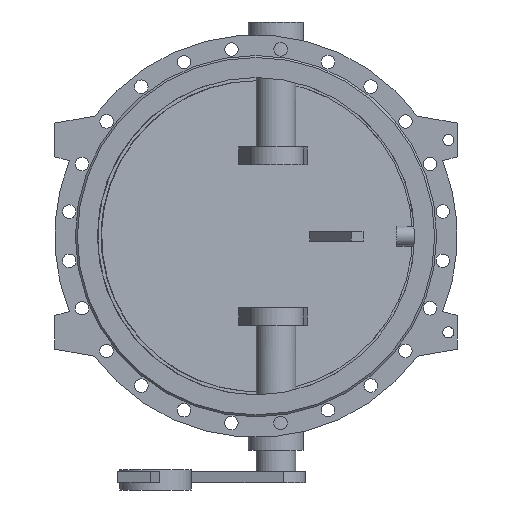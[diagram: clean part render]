
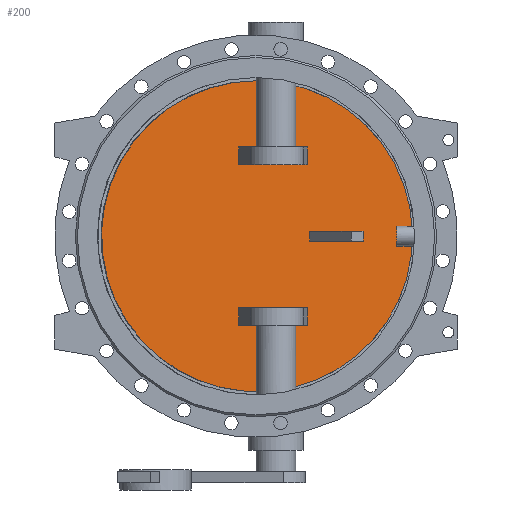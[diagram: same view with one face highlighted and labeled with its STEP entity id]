
A CAD part, front view. The second image highlights one B-rep face of the part: STEP entity #200.
In plain terms, the highlighted planar face has unit normal (0.131, -0.991, 0).
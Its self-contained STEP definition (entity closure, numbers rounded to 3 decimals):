
#200=ADVANCED_FACE('',(#1511,#1513,#1515,#1517),#1519,.T.);
#1511=FACE_BOUND('',#1512,.T.);
#1512=EDGE_LOOP('',(#2916));
#1513=FACE_BOUND('',#1514,.T.);
#1514=EDGE_LOOP('',(#2917,#2918,#2919,#2920));
#1515=FACE_BOUND('',#1516,.T.);
#1516=EDGE_LOOP('',(#2921,#2922,#2923,#2924));
#1517=FACE_BOUND('',#1518,.T.);
#1518=EDGE_LOOP('',(#2925,#2926,#2927,#2928));
#1519=PLANE('',#1520);
#1520=AXIS2_PLACEMENT_3D('',#1521,#1522,#1523);
#1521=CARTESIAN_POINT('',(-1.272,9.66,0.));
#1522=DIRECTION('',(0.131,-0.991,0.));
#1523=DIRECTION('',(0.,0.,-1.));
#2916=ORIENTED_EDGE('',*,*,#3500,.T.);
#2917=ORIENTED_EDGE('',*,*,#3504,.F.);
#2918=ORIENTED_EDGE('',*,*,#3505,.F.);
#2919=ORIENTED_EDGE('',*,*,#3506,.F.);
#2920=ORIENTED_EDGE('',*,*,#3507,.F.);
#2921=ORIENTED_EDGE('',*,*,#3508,.F.);
#2922=ORIENTED_EDGE('',*,*,#3509,.F.);
#2923=ORIENTED_EDGE('',*,*,#3510,.F.);
#2924=ORIENTED_EDGE('',*,*,#3511,.F.);
#2925=ORIENTED_EDGE('',*,*,#3512,.F.);
#2926=ORIENTED_EDGE('',*,*,#3513,.F.);
#2927=ORIENTED_EDGE('',*,*,#3514,.F.);
#2928=ORIENTED_EDGE('',*,*,#3515,.F.);
#3500=EDGE_CURVE('',#3827,#3827,#3828,.T.);
#3504=EDGE_CURVE('',#3835,#3836,#3837,.T.);
#3505=EDGE_CURVE('',#3838,#3835,#3839,.F.);
#3506=EDGE_CURVE('',#3840,#3838,#3841,.T.);
#3507=EDGE_CURVE('',#3836,#3840,#3842,.T.);
#3508=EDGE_CURVE('',#3843,#3844,#3845,.F.);
#3509=EDGE_CURVE('',#3846,#3843,#3847,.T.);
#3510=EDGE_CURVE('',#3848,#3846,#3849,.T.);
#3511=EDGE_CURVE('',#3844,#3848,#3850,.T.);
#3512=EDGE_CURVE('',#3851,#3852,#3853,.T.);
#3513=EDGE_CURVE('',#3854,#3851,#3855,.F.);
#3514=EDGE_CURVE('',#3856,#3854,#3857,.F.);
#3515=EDGE_CURVE('',#3852,#3856,#3858,.F.);
#3827=VERTEX_POINT('',#4980);
#3828=B_SPLINE_CURVE_WITH_KNOTS('',3,
(#4981,#4982,#4983,#4984,#4985,#4986,#4987,#4988,#4989,#4990,#4991,#4992,#4993,#4994,
#4995,#4996,#4997,#4998,#4999,#5000,#5001,#5002,#5003,#5004,#5005,#5006,#5007,#5008,
#5009,#5010,#5011,#5012,#5013,#5014,#5015,#5016,#5017,#5018,#5019,#5020,#5021,#5022,
#5023,#5024,#5025,#5026,#5027,#5028,#5029,#5030,#5031),
.UNSPECIFIED.,.T.,.F.,
(4,1,1,1,1,1,1,1,1,1,1,1,1,1,1,1,1,1,1,1,1,1,1,1,1,1,1,1,1,1,1,1,1,1,1,1,1,1,1,1,
1,1,1,1,1,1,1,1,4),
(0.,0.021,0.042,0.063,0.084,
0.105,0.126,0.147,0.168,0.189,
0.211,0.232,0.253,0.274,0.295,
0.316,0.337,0.358,0.379,0.4,
0.421,0.442,0.463,0.484,0.505,
0.527,0.548,0.569,0.59,0.611,
0.632,0.653,0.674,0.695,0.716,
0.737,0.758,0.779,0.8,0.821,
0.842,0.864,0.885,0.906,0.927,
0.948,0.969,0.986,1.),
.UNSPECIFIED.);
#3835=VERTEX_POINT('',#5094);
#3836=VERTEX_POINT('',#5095);
#3837=LINE('',#5096,#5097);
#3838=VERTEX_POINT('',#5099);
#3839=LINE('',#5100,#5101);
#3840=VERTEX_POINT('',#5103);
#3841=LINE('',#5104,#5105);
#3842=LINE('',#5107,#5108);
#3843=VERTEX_POINT('',#5110);
#3844=VERTEX_POINT('',#5111);
#3845=LINE('',#5112,#5113);
#3846=VERTEX_POINT('',#5115);
#3847=LINE('',#5116,#5117);
#3848=VERTEX_POINT('',#5119);
#3849=LINE('',#5120,#5121);
#3850=LINE('',#5123,#5124);
#3851=VERTEX_POINT('',#5126);
#3852=VERTEX_POINT('',#5127);
#3853=LINE('',#5128,#5129);
#3854=VERTEX_POINT('',#5131);
#3855=LINE('',#5132,#5133);
#3856=VERTEX_POINT('',#5135);
#3857=LINE('',#5136,#5137);
#3858=LINE('',#5139,#5140);
#4980=CARTESIAN_POINT('',(2.611,10.171,392.));
#4981=CARTESIAN_POINT('',(2.611,10.171,392.));
#4982=CARTESIAN_POINT('',(-14.616,7.903,392.));
#4983=CARTESIAN_POINT('',(-49.11,3.362,389.724));
#4984=CARTESIAN_POINT('',(-100.015,-3.34,379.519));
#4985=CARTESIAN_POINT('',(-149.198,-9.815,362.666));
#4986=CARTESIAN_POINT('',(-195.753,-15.944,339.455));
#4987=CARTESIAN_POINT('',(-238.826,-21.615,310.311));
#4988=CARTESIAN_POINT('',(-277.674,-26.729,275.739));
#4989=CARTESIAN_POINT('',(-311.615,-31.197,236.349));
#4990=CARTESIAN_POINT('',(-340.058,-34.942,192.829));
#4991=CARTESIAN_POINT('',(-362.508,-37.898,145.94));
#4992=CARTESIAN_POINT('',(-378.573,-40.013,96.504));
#4993=CARTESIAN_POINT('',(-387.975,-41.25,45.382));
#4994=CARTESIAN_POINT('',(-390.549,-41.589,-6.533));
#4995=CARTESIAN_POINT('',(-386.251,-41.023,-58.334));
#4996=CARTESIAN_POINT('',(-375.155,-39.563,-109.116));
#4997=CARTESIAN_POINT('',(-357.454,-37.232,-157.994));
#4998=CARTESIAN_POINT('',(-333.457,-34.073,-204.112));
#4999=CARTESIAN_POINT('',(-303.58,-30.14,-246.666));
#5000=CARTESIAN_POINT('',(-268.345,-25.501,-284.909));
#5001=CARTESIAN_POINT('',(-228.365,-20.237,-318.171));
#5002=CARTESIAN_POINT('',(-184.34,-14.441,-345.87));
#5003=CARTESIAN_POINT('',(-137.039,-8.214,-367.518));
#5004=CARTESIAN_POINT('',(-87.29,-1.665,-382.734));
#5005=CARTESIAN_POINT('',(-35.965,5.093,-391.251));
#5006=CARTESIAN_POINT('',(16.036,11.939,-392.918));
#5007=CARTESIAN_POINT('',(67.801,18.754,-387.706));
#5008=CARTESIAN_POINT('',(118.423,25.418,-375.708));
#5009=CARTESIAN_POINT('',(167.014,31.815,-357.135));
#5010=CARTESIAN_POINT('',(212.723,37.833,-332.314));
#5011=CARTESIAN_POINT('',(254.751,43.366,-301.681));
#5012=CARTESIAN_POINT('',(292.365,48.318,-265.774));
#5013=CARTESIAN_POINT('',(324.907,52.602,-225.222));
#5014=CARTESIAN_POINT('',(351.811,56.144,-180.735));
#5015=CARTESIAN_POINT('',(372.607,58.882,-133.092));
#5016=CARTESIAN_POINT('',(386.935,60.768,-83.125));
#5017=CARTESIAN_POINT('',(394.544,61.77,-31.706));
#5018=CARTESIAN_POINT('',(395.302,61.87,20.267));
#5019=CARTESIAN_POINT('',(389.195,61.066,71.886));
#5020=CARTESIAN_POINT('',(376.331,59.372,122.251));
#5021=CARTESIAN_POINT('',(356.932,56.818,170.481));
#5022=CARTESIAN_POINT('',(331.336,53.449,215.733));
#5023=CARTESIAN_POINT('',(299.989,49.322,257.217));
#5024=CARTESIAN_POINT('',(263.436,44.509,294.208));
#5025=CARTESIAN_POINT('',(222.326,39.097,326.045));
#5026=CARTESIAN_POINT('',(177.427,33.186,352.15));
#5027=CARTESIAN_POINT('',(129.39,26.862,372.154));
#5028=CARTESIAN_POINT('',(82.011,20.624,384.863));
#5029=CARTESIAN_POINT('',(39.415,15.016,390.9));
#5030=CARTESIAN_POINT('',(13.859,11.652,392.));
#5031=CARTESIAN_POINT('',(2.611,10.171,392.));
#5094=CARTESIAN_POINT('',(249.016,42.611,-12.5));
#5095=CARTESIAN_POINT('',(249.016,42.611,12.5));
#5096=CARTESIAN_POINT('',(249.016,42.611,-12.5));
#5097=VECTOR('',#5098,1.);
#5098=DIRECTION('',(0.,0.,1.));
#5099=CARTESIAN_POINT('',(135.,27.601,-12.5));
#5100=CARTESIAN_POINT('',(249.016,42.611,-12.5));
#5101=VECTOR('',#5102,1.);
#5102=DIRECTION('',(-0.991,-0.131,0.));
#5103=CARTESIAN_POINT('',(135.,27.601,12.5));
#5104=CARTESIAN_POINT('',(135.,27.601,12.5));
#5105=VECTOR('',#5106,1.);
#5106=DIRECTION('',(0.,0.,-1.));
#5107=CARTESIAN_POINT('',(249.016,42.611,12.5));
#5108=VECTOR('',#5109,1.);
#5109=DIRECTION('',(-0.991,-0.131,0.));
#5110=CARTESIAN_POINT('',(-44.007,4.034,-225.));
#5111=CARTESIAN_POINT('',(129.407,26.864,-225.));
#5112=CARTESIAN_POINT('',(129.407,26.864,-225.));
#5113=VECTOR('',#5114,1.);
#5114=DIRECTION('',(-0.991,-0.131,0.));
#5115=CARTESIAN_POINT('',(-44.007,4.034,-180.));
#5116=CARTESIAN_POINT('',(-44.007,4.034,-180.));
#5117=VECTOR('',#5118,1.);
#5118=DIRECTION('',(0.,0.,-1.));
#5119=CARTESIAN_POINT('',(129.407,26.864,-180.));
#5120=CARTESIAN_POINT('',(129.407,26.864,-180.));
#5121=VECTOR('',#5122,1.);
#5122=DIRECTION('',(-0.991,-0.131,0.));
#5123=CARTESIAN_POINT('',(129.407,26.864,-225.));
#5124=VECTOR('',#5125,1.);
#5125=DIRECTION('',(0.,0.,1.));
#5126=CARTESIAN_POINT('',(129.407,26.864,225.));
#5127=CARTESIAN_POINT('',(-44.007,4.034,225.));
#5128=CARTESIAN_POINT('',(129.407,26.864,225.));
#5129=VECTOR('',#5130,1.);
#5130=DIRECTION('',(-0.991,-0.131,0.));
#5131=CARTESIAN_POINT('',(129.407,26.864,180.));
#5132=CARTESIAN_POINT('',(129.407,26.864,225.));
#5133=VECTOR('',#5134,1.);
#5134=DIRECTION('',(0.,0.,-1.));
#5135=CARTESIAN_POINT('',(-44.007,4.034,180.));
#5136=CARTESIAN_POINT('',(129.407,26.864,180.));
#5137=VECTOR('',#5138,1.);
#5138=DIRECTION('',(-0.991,-0.131,0.));
#5139=CARTESIAN_POINT('',(-44.007,4.034,180.));
#5140=VECTOR('',#5141,1.);
#5141=DIRECTION('',(0.,0.,1.));
